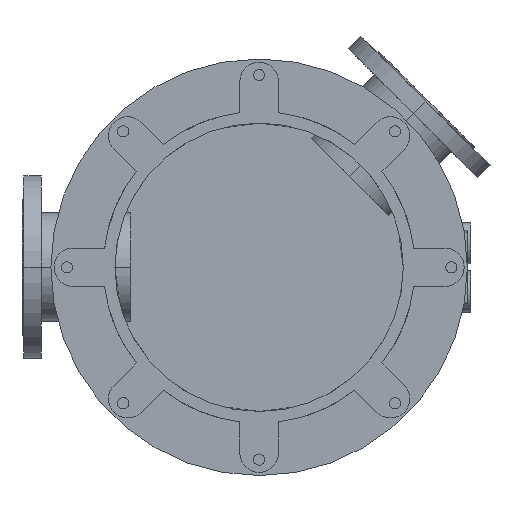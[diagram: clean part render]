
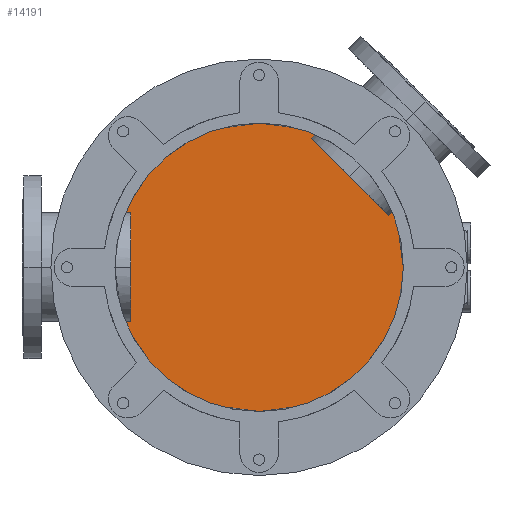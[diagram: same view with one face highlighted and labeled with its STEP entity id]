
A CAD part, front view. The second image highlights one B-rep face of the part: STEP entity #14191.
In plain terms, the highlighted planar face has unit normal (0, -1, 0).
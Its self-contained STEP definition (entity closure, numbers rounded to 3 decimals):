
#2806=CARTESIAN_POINT('',(0.,1004.,0.));
#2807=DIRECTION('',(0.,-1.,0.));
#2808=DIRECTION('',(0.,0.,1.));
#2809=AXIS2_PLACEMENT_3D('',#2806,#2807,#2808);
#2933=CARTESIAN_POINT('',(0.,1004.,0.));
#2934=DIRECTION('',(0.,-1.,0.));
#2935=DIRECTION('',(0.,0.,-1.));
#2936=AXIS2_PLACEMENT_3D('',#2933,#2934,#2935);
#9184=CARTESIAN_POINT('',(0.,1004.,240.));
#9185=CARTESIAN_POINT('',(0.,1004.,-240.));
#9186=VERTEX_POINT('',#9184);
#9187=VERTEX_POINT('',#9185);
#14181=CARTESIAN_POINT('',(0.,1004.,0.));
#14182=DIRECTION('',(0.,1.,0.));
#14183=DIRECTION('',(0.,0.,-1.));
#14184=AXIS2_PLACEMENT_3D('',#14181,#14182,#14183);
#14185=PLANE('',#14184);
#14186=ORIENTED_EDGE('',*,*,#14165,.F.);
#14188=ORIENTED_EDGE('',*,*,#14187,.F.);
#14189=EDGE_LOOP('',(#14186,#14188));
#14190=FACE_OUTER_BOUND('',#14189,.F.);
#14191=ADVANCED_FACE('',(#14190),#14185,.F.);
#2810=CIRCLE('',#2809,240.);
#2937=CIRCLE('',#2936,240.);
#14165=EDGE_CURVE('',#9186,#9187,#2810,.T.);
#14187=EDGE_CURVE('',#9187,#9186,#2937,.T.);
